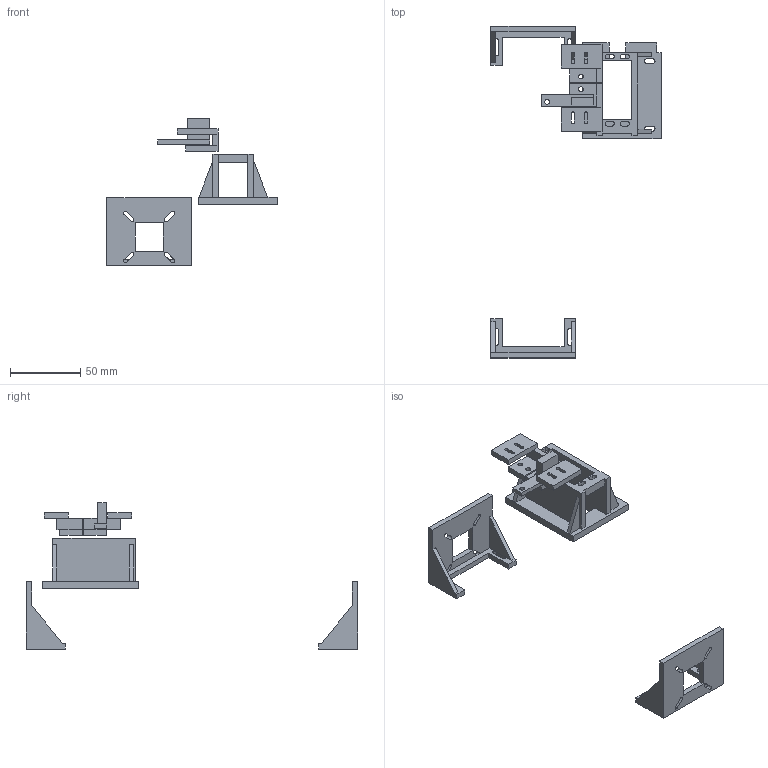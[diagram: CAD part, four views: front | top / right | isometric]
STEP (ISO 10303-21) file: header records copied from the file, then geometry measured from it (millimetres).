
FILE_DESCRIPTION(('Open CASCADE Model'),'2;1');
FILE_NAME('Open CASCADE Shape Model','2026-10-22T07:40:54',('Author'),( 'Open CASCADE'),'Open CASCADE STEP processor 7.8','Open CASCADE 7.8' ,'Unknown');
FILE_SCHEMA(('AUTOMOTIVE_DESIGN { 1 0 10303 214 1 1 1 1 }'));
Length unit declared in the file: millimetre
Products named in the file (7): H3-P2_printed_parts_REFERENCE_ONLY; servo-cradle-mm; camera-front-mm; camera-rear-mm; limit-closed-seat-mm; limit-open-seat-mm; gate-limit-flag-mm
Assembly tree (6 placements, depth 2):
  H3-P2_printed_parts_REFERENCE_ONLY
    servo-cradle-mm
    camera-front-mm
    camera-rear-mm
    limit-closed-seat-mm
    limit-open-seat-mm
    gate-limit-flag-mm
Bounding box: 121 x 236 x 104 mm (x, y, z)
Volume: 67737.3 mm3; surface area: 43013.9 mm2
Topology: 6 solids, 6 shells, 229 faces, 702 edges, 468 vertices
Faces by surface type: plane 176, cylinder 53
Full cylindrical faces by diameter (mm): 3.4 x5
Entity records: 17046 total; most frequent: CARTESIAN_POINT 3649, DIRECTION 2228, LINE 1473, VECTOR 1473, ORIENTED_EDGE 1404, PCURVE 1404, DEFINITIONAL_REPRESENTATION 1404, EDGE_CURVE 702
